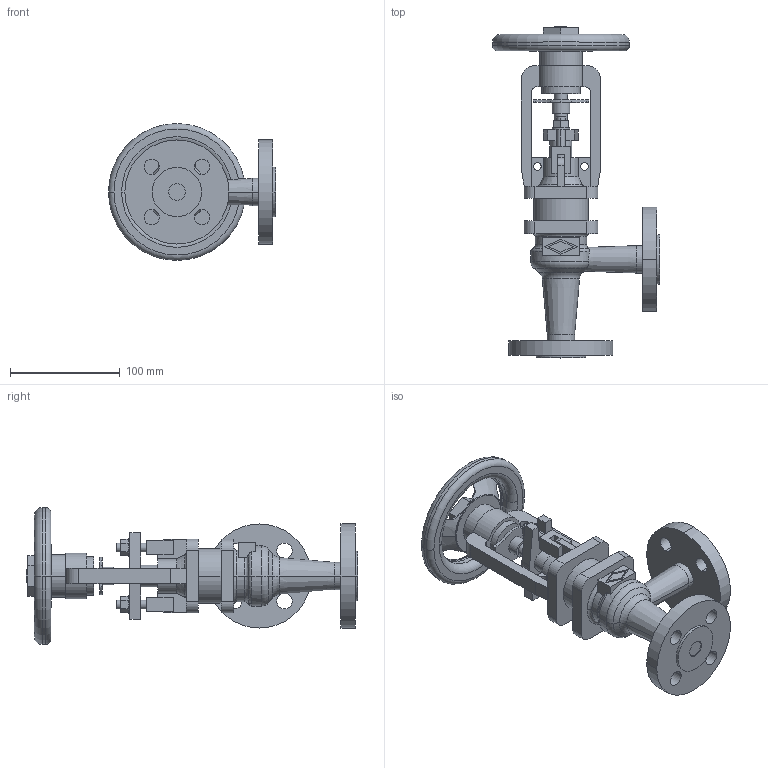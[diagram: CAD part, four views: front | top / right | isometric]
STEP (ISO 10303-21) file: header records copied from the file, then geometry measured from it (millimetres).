
FILE_DESCRIPTION(('OneSpaceDesigner STEP Export'),'2;1');
FILE_NAME('c000004434.stp','2010-05-17T 9:37:17',(''),(''),'OneSpace Designer STEP processor for AP214 (Solid Model)','OneSpace Modeling 15.50B 03-Nov-2007 (C) CoCreate Software GmbH','');
FILE_SCHEMA(('AUTOMOTIVE_DESIGN { 1 0 10303 214 1 1 1 1 }'));
Length unit declared in the file: millimetre
Products named in the file (1): 1
Bounding box: 152.5 x 303 x 125 mm (x, y, z)
Volume: 719564.5 mm3; surface area: 143927.7 mm2
Topology: 1 solids, 1 shells, 295 faces, 776 edges, 506 vertices
Faces by surface type: plane 140, cylinder 113, torus 26, cone 16
Entity records: 11457 total; most frequent: CARTESIAN_POINT 2123, ORIENTED_EDGE 1552, DIRECTION 1306, EDGE_CURVE 776, VERTEX_POINT 506, AXIS2_PLACEMENT_3D 441, VECTOR 424, LINE 424
